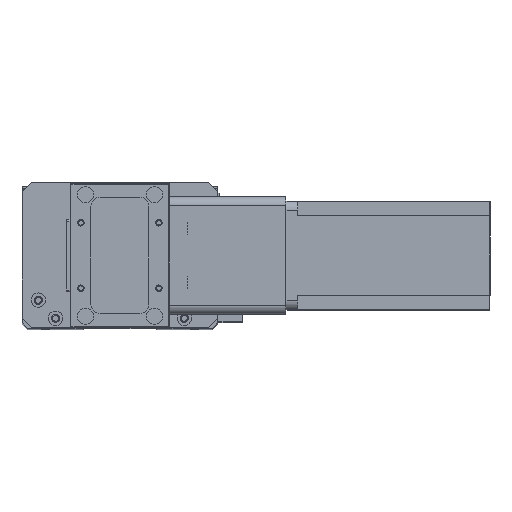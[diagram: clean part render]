
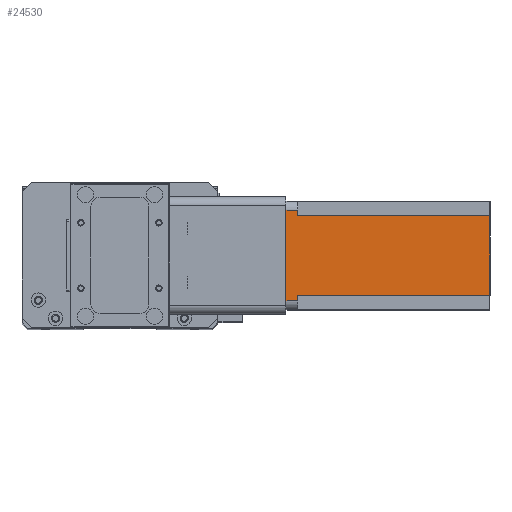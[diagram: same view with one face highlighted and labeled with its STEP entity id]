
A CAD part, top view. The second image highlights one B-rep face of the part: STEP entity #24530.
In plain terms, the highlighted planar face has unit normal (0, 0, 1) as drawn and (0, 1, 0) by its records, which use the part's own axes.
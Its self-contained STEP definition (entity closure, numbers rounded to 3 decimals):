
#507 = EDGE_CURVE ( 'NONE', #9012, #5628, #9956, .T. ) ;
#841 = CARTESIAN_POINT ( 'NONE',  ( 52., 60., -112.5 ) ) ;
#1212 = CARTESIAN_POINT ( 'NONE',  ( 52., 60., -112.5 ) ) ;
#1979 = LINE ( 'NONE', #11875, #16552 ) ;
#3023 = DIRECTION ( 'NONE',  ( -1., 0., 0. ) ) ;
#3152 = CARTESIAN_POINT ( 'NONE',  ( 5., 60., -6.5 ) ) ;
#3369 = PLANE ( 'NONE',  #10063 ) ;
#3847 = EDGE_CURVE ( 'NONE', #15822, #19533, #18439, .T. ) ;
#4035 = DIRECTION ( 'NONE',  ( 0., 0., 1. ) ) ;
#4411 = CARTESIAN_POINT ( 'NONE',  ( 8., 60., -112.5 ) ) ;
#4621 = CARTESIAN_POINT ( 'NONE',  ( 8., 60., -6.5 ) ) ;
#5108 = VECTOR ( 'NONE', #17231, 1000. ) ;
#5362 = CARTESIAN_POINT ( 'NONE',  ( 52., 60., -6.5 ) ) ;
#5628 = VERTEX_POINT ( 'NONE', #21799 ) ;
#5728 = LINE ( 'NONE', #5362, #5108 ) ;
#5742 = CARTESIAN_POINT ( 'NONE',  ( 0., 60., 0. ) ) ;
#5938 = DIRECTION ( 'NONE',  ( 0., 0., -1. ) ) ;
#5953 = ORIENTED_EDGE ( 'NONE', *, *, #7050, .T. ) ;
#6998 = CARTESIAN_POINT ( 'NONE',  ( 0., 60., -112.5 ) ) ;
#7050 = EDGE_CURVE ( 'NONE', #15822, #12019, #17220, .T. ) ;
#7461 = CARTESIAN_POINT ( 'NONE',  ( 5., 60., -112.5 ) ) ;
#7847 = DIRECTION ( 'NONE',  ( 0., 0., -1. ) ) ;
#7890 = VECTOR ( 'NONE', #24926, 1000. ) ;
#7934 = EDGE_CURVE ( 'NONE', #17685, #24022, #1979, .T. ) ;
#8351 = VECTOR ( 'NONE', #5938, 1000. ) ;
#9012 = VERTEX_POINT ( 'NONE', #3152 ) ;
#9454 = VERTEX_POINT ( 'NONE', #4621 ) ;
#9632 = DIRECTION ( 'NONE',  ( -1., 0., 0. ) ) ;
#9956 = LINE ( 'NONE', #7461, #19873 ) ;
#10063 = AXIS2_PLACEMENT_3D ( 'NONE', #19225, #23234, #11360 ) ;
#10840 = CARTESIAN_POINT ( 'NONE',  ( 55., 60., 0. ) ) ;
#11129 = LINE ( 'NONE', #24602, #21639 ) ;
#11244 = EDGE_CURVE ( 'NONE', #9454, #12019, #22979, .T. ) ;
#11360 = DIRECTION ( 'NONE',  ( 0., 0., 1. ) ) ;
#11875 = CARTESIAN_POINT ( 'NONE',  ( 55., 60., -112.5 ) ) ;
#11956 = ORIENTED_EDGE ( 'NONE', *, *, #22398, .F. ) ;
#12019 = VERTEX_POINT ( 'NONE', #4411 ) ;
#12108 = ORIENTED_EDGE ( 'NONE', *, *, #3847, .F. ) ;
#12122 = CARTESIAN_POINT ( 'NONE',  ( 52., 60., -6.5 ) ) ;
#12758 = DIRECTION ( 'NONE',  ( -1., 0., 0. ) ) ;
#12963 = LINE ( 'NONE', #5742, #18166 ) ;
#14096 = FACE_OUTER_BOUND ( 'NONE', #19303, .T. ) ;
#14786 = EDGE_CURVE ( 'NONE', #19533, #24022, #5728, .T. ) ;
#15822 = VERTEX_POINT ( 'NONE', #841 ) ;
#15979 = VECTOR ( 'NONE', #3023, 1000. ) ;
#16381 = ORIENTED_EDGE ( 'NONE', *, *, #507, .T. ) ;
#16530 = ORIENTED_EDGE ( 'NONE', *, *, #7934, .T. ) ;
#16552 = VECTOR ( 'NONE', #7847, 1000. ) ;
#17220 = LINE ( 'NONE', #6998, #15979 ) ;
#17231 = DIRECTION ( 'NONE',  ( 1., 0., 0. ) ) ;
#17685 = VERTEX_POINT ( 'NONE', #10840 ) ;
#18166 = VECTOR ( 'NONE', #9632, 1000. ) ;
#18439 = LINE ( 'NONE', #1212, #7890 ) ;
#19225 = CARTESIAN_POINT ( 'NONE',  ( 0., 60., -112.5 ) ) ;
#19303 = EDGE_LOOP ( 'NONE', ( #11956, #16530, #20725, #12108, #5953, #22097, #23939, #16381 ) ) ;
#19533 = VERTEX_POINT ( 'NONE', #12122 ) ;
#19803 = CARTESIAN_POINT ( 'NONE',  ( 8., 60., -112.5 ) ) ;
#19873 = VECTOR ( 'NONE', #4035, 1000. ) ;
#20725 = ORIENTED_EDGE ( 'NONE', *, *, #14786, .F. ) ;
#21639 = VECTOR ( 'NONE', #12758, 1000. ) ;
#21799 = CARTESIAN_POINT ( 'NONE',  ( 5., 60., 0. ) ) ;
#22042 = EDGE_CURVE ( 'NONE', #9454, #9012, #11129, .T. ) ;
#22097 = ORIENTED_EDGE ( 'NONE', *, *, #11244, .F. ) ;
#22398 = EDGE_CURVE ( 'NONE', #17685, #5628, #12963, .T. ) ;
#22979 = LINE ( 'NONE', #19803, #8351 ) ;
#23234 = DIRECTION ( 'NONE',  ( 0., 1., 0. ) ) ;
#23597 = CARTESIAN_POINT ( 'NONE',  ( 55., 60., -6.5 ) ) ;
#23939 = ORIENTED_EDGE ( 'NONE', *, *, #22042, .T. ) ;
#24022 = VERTEX_POINT ( 'NONE', #23597 ) ;
#24530 = ADVANCED_FACE ( 'NONE', ( #14096 ), #3369, .T. ) ;
#24602 = CARTESIAN_POINT ( 'NONE',  ( 8., 60., -6.5 ) ) ;
#24926 = DIRECTION ( 'NONE',  ( 0., 0., 1. ) ) ;
